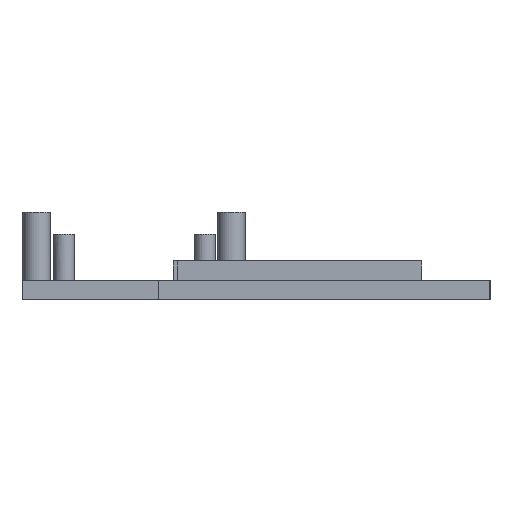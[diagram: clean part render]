
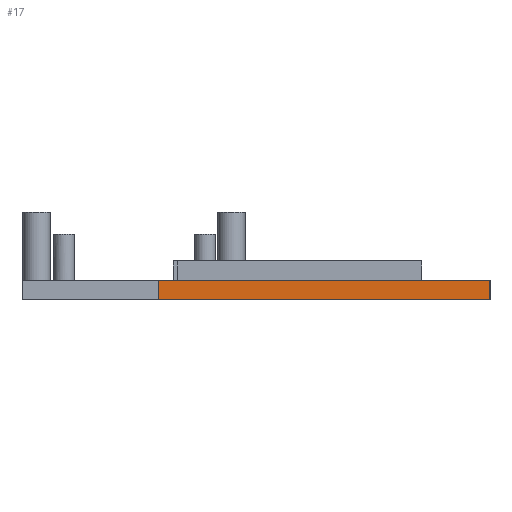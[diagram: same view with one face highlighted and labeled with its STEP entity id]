
A CAD part, left-side view. The second image highlights one B-rep face of the part: STEP entity #17.
In plain terms, the highlighted planar face has unit normal (-1, 0, 0).
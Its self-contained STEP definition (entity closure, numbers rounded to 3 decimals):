
#17 = ADVANCED_FACE('',(#18),#32,.F.);
#18 = FACE_BOUND('',#19,.F.);
#19 = EDGE_LOOP('',(#20,#55,#83,#111));
#20 = ORIENTED_EDGE('',*,*,#21,.F.);
#21 = EDGE_CURVE('',#22,#24,#26,.T.);
#22 = VERTEX_POINT('',#23);
#23 = CARTESIAN_POINT('',(-105.,-6.,4.));
#24 = VERTEX_POINT('',#25);
#25 = CARTESIAN_POINT('',(-105.,62.,4.));
#26 = SURFACE_CURVE('',#27,(#31,#43),.PCURVE_S1.);
#27 = LINE('',#28,#29);
#28 = CARTESIAN_POINT('',(-105.,-6.,4.));
#29 = VECTOR('',#30,1.);
#30 = DIRECTION('',(0.,1.,0.));
#31 = PCURVE('',#32,#37);
#32 = PLANE('',#33);
#33 = AXIS2_PLACEMENT_3D('',#34,#35,#36);
#34 = CARTESIAN_POINT('',(-105.,-6.,0.));
#35 = DIRECTION('',(1.,0.,-0.));
#36 = DIRECTION('',(0.,0.,1.));
#37 = DEFINITIONAL_REPRESENTATION('',(#38),#42);
#38 = LINE('',#39,#40);
#39 = CARTESIAN_POINT('',(4.,0.));
#40 = VECTOR('',#41,1.);
#41 = DIRECTION('',(0.,-1.));
#42 = ( GEOMETRIC_REPRESENTATION_CONTEXT(2) 
PARAMETRIC_REPRESENTATION_CONTEXT() REPRESENTATION_CONTEXT('2D SPACE',''
  ) );
#43 = PCURVE('',#44,#49);
#44 = PLANE('',#45);
#45 = AXIS2_PLACEMENT_3D('',#46,#47,#48);
#46 = CARTESIAN_POINT('',(-105.,-6.,4.));
#47 = DIRECTION('',(0.,0.,1.));
#48 = DIRECTION('',(1.,0.,-0.));
#49 = DEFINITIONAL_REPRESENTATION('',(#50),#54);
#50 = LINE('',#51,#52);
#51 = CARTESIAN_POINT('',(0.,0.));
#52 = VECTOR('',#53,1.);
#53 = DIRECTION('',(0.,1.));
#54 = ( GEOMETRIC_REPRESENTATION_CONTEXT(2) 
PARAMETRIC_REPRESENTATION_CONTEXT() REPRESENTATION_CONTEXT('2D SPACE',''
  ) );
#55 = ORIENTED_EDGE('',*,*,#56,.F.);
#56 = EDGE_CURVE('',#57,#22,#59,.T.);
#57 = VERTEX_POINT('',#58);
#58 = CARTESIAN_POINT('',(-105.,-6.,0.));
#59 = SURFACE_CURVE('',#60,(#64,#71),.PCURVE_S1.);
#60 = LINE('',#61,#62);
#61 = CARTESIAN_POINT('',(-105.,-6.,0.));
#62 = VECTOR('',#63,1.);
#63 = DIRECTION('',(0.,0.,1.));
#64 = PCURVE('',#32,#65);
#65 = DEFINITIONAL_REPRESENTATION('',(#66),#70);
#66 = LINE('',#67,#68);
#67 = CARTESIAN_POINT('',(0.,0.));
#68 = VECTOR('',#69,1.);
#69 = DIRECTION('',(1.,0.));
#70 = ( GEOMETRIC_REPRESENTATION_CONTEXT(2) 
PARAMETRIC_REPRESENTATION_CONTEXT() REPRESENTATION_CONTEXT('2D SPACE',''
  ) );
#71 = PCURVE('',#72,#77);
#72 = PLANE('',#73);
#73 = AXIS2_PLACEMENT_3D('',#74,#75,#76);
#74 = CARTESIAN_POINT('',(-105.,-6.,0.));
#75 = DIRECTION('',(-0.,1.,0.));
#76 = DIRECTION('',(0.,0.,1.));
#77 = DEFINITIONAL_REPRESENTATION('',(#78),#82);
#78 = LINE('',#79,#80);
#79 = CARTESIAN_POINT('',(0.,0.));
#80 = VECTOR('',#81,1.);
#81 = DIRECTION('',(1.,0.));
#82 = ( GEOMETRIC_REPRESENTATION_CONTEXT(2) 
PARAMETRIC_REPRESENTATION_CONTEXT() REPRESENTATION_CONTEXT('2D SPACE',''
  ) );
#83 = ORIENTED_EDGE('',*,*,#84,.F.);
#84 = EDGE_CURVE('',#85,#57,#87,.T.);
#85 = VERTEX_POINT('',#86);
#86 = CARTESIAN_POINT('',(-105.,62.,0.));
#87 = SURFACE_CURVE('',#88,(#92,#99),.PCURVE_S1.);
#88 = LINE('',#89,#90);
#89 = CARTESIAN_POINT('',(-105.,62.,0.));
#90 = VECTOR('',#91,1.);
#91 = DIRECTION('',(0.,-1.,0.));
#92 = PCURVE('',#32,#93);
#93 = DEFINITIONAL_REPRESENTATION('',(#94),#98);
#94 = LINE('',#95,#96);
#95 = CARTESIAN_POINT('',(0.,-68.));
#96 = VECTOR('',#97,1.);
#97 = DIRECTION('',(0.,1.));
#98 = ( GEOMETRIC_REPRESENTATION_CONTEXT(2) 
PARAMETRIC_REPRESENTATION_CONTEXT() REPRESENTATION_CONTEXT('2D SPACE',''
  ) );
#99 = PCURVE('',#100,#105);
#100 = PLANE('',#101);
#101 = AXIS2_PLACEMENT_3D('',#102,#103,#104);
#102 = CARTESIAN_POINT('',(-105.,-6.,0.));
#103 = DIRECTION('',(0.,0.,1.));
#104 = DIRECTION('',(1.,0.,-0.));
#105 = DEFINITIONAL_REPRESENTATION('',(#106),#110);
#106 = LINE('',#107,#108);
#107 = CARTESIAN_POINT('',(0.,68.));
#108 = VECTOR('',#109,1.);
#109 = DIRECTION('',(0.,-1.));
#110 = ( GEOMETRIC_REPRESENTATION_CONTEXT(2) 
PARAMETRIC_REPRESENTATION_CONTEXT() REPRESENTATION_CONTEXT('2D SPACE',''
  ) );
#111 = ORIENTED_EDGE('',*,*,#112,.T.);
#112 = EDGE_CURVE('',#85,#24,#113,.T.);
#113 = SURFACE_CURVE('',#114,(#118,#125),.PCURVE_S1.);
#114 = LINE('',#115,#116);
#115 = CARTESIAN_POINT('',(-105.,62.,0.));
#116 = VECTOR('',#117,1.);
#117 = DIRECTION('',(0.,0.,1.));
#118 = PCURVE('',#32,#119);
#119 = DEFINITIONAL_REPRESENTATION('',(#120),#124);
#120 = LINE('',#121,#122);
#121 = CARTESIAN_POINT('',(0.,-68.));
#122 = VECTOR('',#123,1.);
#123 = DIRECTION('',(1.,0.));
#124 = ( GEOMETRIC_REPRESENTATION_CONTEXT(2) 
PARAMETRIC_REPRESENTATION_CONTEXT() REPRESENTATION_CONTEXT('2D SPACE',''
  ) );
#125 = PCURVE('',#126,#131);
#126 = PLANE('',#127);
#127 = AXIS2_PLACEMENT_3D('',#128,#129,#130);
#128 = CARTESIAN_POINT('',(-105.,62.,0.));
#129 = DIRECTION('',(-0.,1.,0.));
#130 = DIRECTION('',(0.,0.,1.));
#131 = DEFINITIONAL_REPRESENTATION('',(#132),#136);
#132 = LINE('',#133,#134);
#133 = CARTESIAN_POINT('',(0.,0.));
#134 = VECTOR('',#135,1.);
#135 = DIRECTION('',(1.,0.));
#136 = ( GEOMETRIC_REPRESENTATION_CONTEXT(2) 
PARAMETRIC_REPRESENTATION_CONTEXT() REPRESENTATION_CONTEXT('2D SPACE',''
  ) );
